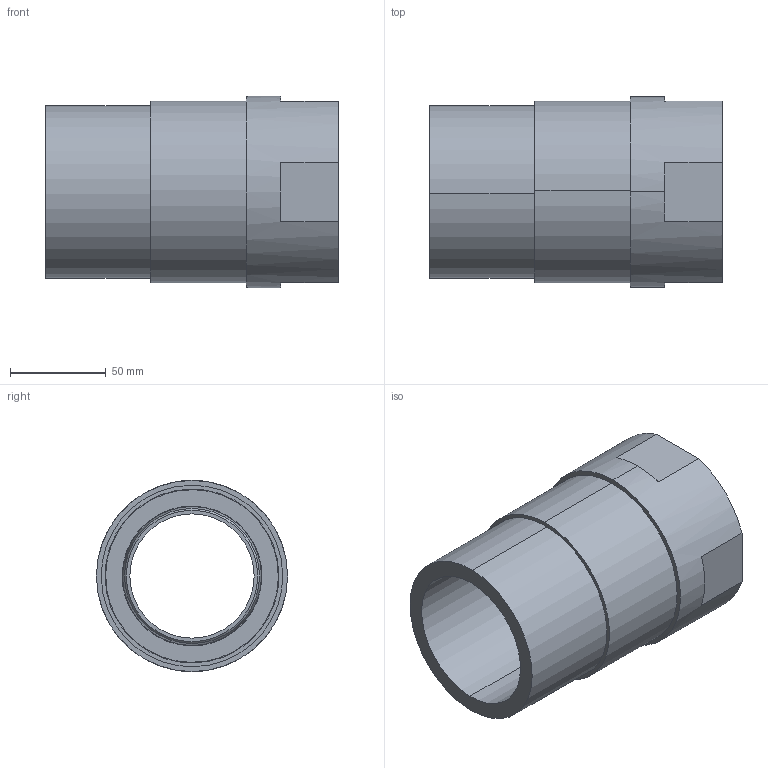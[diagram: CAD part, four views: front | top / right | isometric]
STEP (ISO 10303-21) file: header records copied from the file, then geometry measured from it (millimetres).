
FILE_DESCRIPTION (( 'STEP AP214' ), '1' );
FILE_NAME ('KP_C17-90F.step', '2012-09-03T10:40:48', ( 'robinj' ), ( 'Microsoft' ), 'SwSTEP 2.0', 'SolidWorks 2012', '' );
FILE_SCHEMA (( 'AUTOMOTIVE_DESIGN' ));
Length unit declared in the file: millimetre
Products named in the file (1): KP_C17-90F
Bounding box: 153 x 100 x 100 mm (x, y, z)
Volume: 412385.5 mm3; surface area: 144778.2 mm2
Topology: 3 solids, 3 shells, 56 faces, 120 edges, 74 vertices
Faces by surface type: cylinder 20, plane 18, cone 12, torus 6
Entity records: 2212 total; most frequent: DIRECTION 306, CARTESIAN_POINT 251, ORIENTED_EDGE 240, AXIS2_PLACEMENT_3D 129, EDGE_CURVE 120, VERTEX_POINT 74, CIRCLE 72, EDGE_LOOP 66
